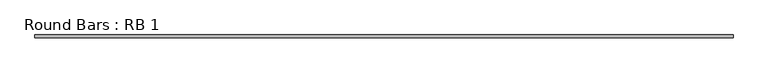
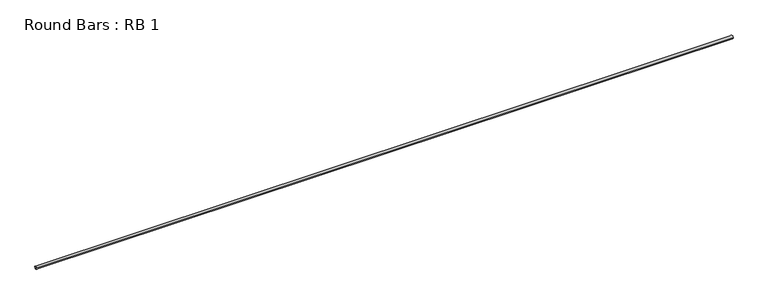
"""IFC4 building model written with IfcOpenShell, lengths in millimetres: beam geometry, Round Bars : RB 1."""

from ifc_helpers import new_model, si_unit, point, frame, origin, origin_2d, place, context, project, spatial, circle_curve, trimmed, segment, composite_curve, outline, extrude, source, transform, mapped, element, save


def round_bars_rb_1_5fd52b35(model_context):
    return source(origin(), model_context, "Body", "SweptSolid", [
        extrude(outline(composite_curve([segment(trimmed(circle_curve(origin_2d(), 12.7), [point((-12.7, 0.0))], [point((12.7, 0.0))], False, "CARTESIAN"), True, "CONTINUOUS"), segment(trimmed(circle_curve(origin_2d(), 12.7), [point((12.7, 0.0))], [point((-12.7, 0.0))], False, "CARTESIAN"), True, "CONTINUOUS")], self_intersect=False)), frame((-3223.5675668, 0.0, 0.0), z_axis=(1.0, 0.0, 0.0), x_axis=(0.0, 1.0, 0.0)), (0.0, 0.0, 1.0), 6440.8101566),
    ])


if __name__ == "__main__":
    model = new_model("IFC4")
    model_context = context("Model", 3, world=origin())
    ifc_project = project(units=[si_unit("LENGTHUNIT", "METRE", prefix="MILLI")], contexts=[model_context])
    site = spatial("IfcSite", under=ifc_project)
    building = spatial("IfcBuilding", under=site)
    placement = place(None, origin())
    round_bars_rb_1_shape = round_bars_rb_1_5fd52b35(model_context)
    element("IfcBeam", 1, ObjectType="Round Bars : RB 1", at=placement, inside=building, context=model_context, shape_type="MappedRepresentation", body=[
        mapped(round_bars_rb_1_shape, transform((0.0, 0.0, 0.0), x_axis=(1.0, 0.0, 0.0), y_axis=(0.0, 1.0, 0.0), z_axis=(0.0, 0.0, 1.0))),
    ])
    save(model, "model.ifc")
